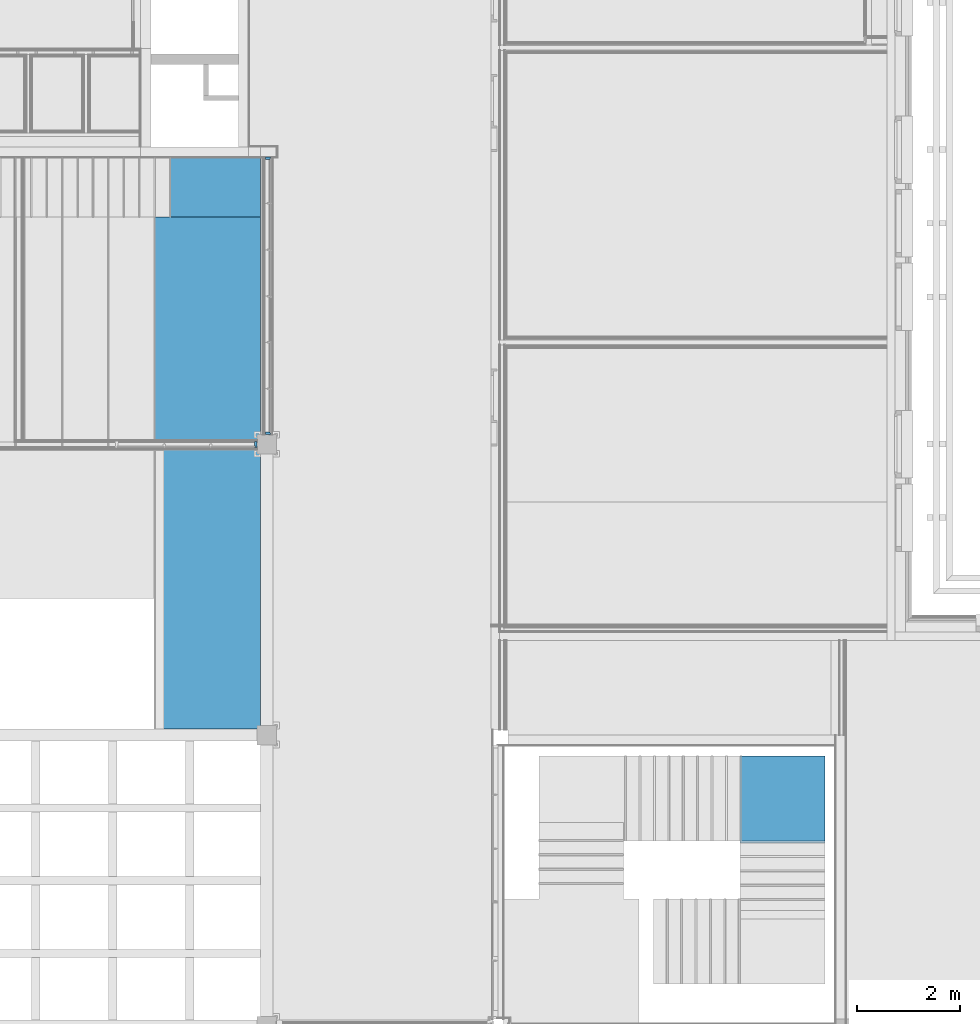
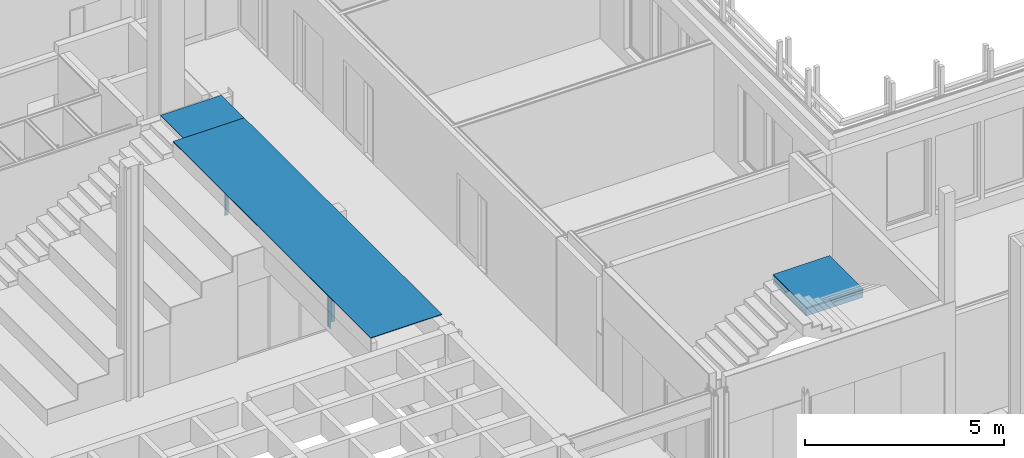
# One storey, part 41 of 139: 7 members, 5 elements without a shape of their own.
"""IFC2X3 building model written with IfcOpenShell, lengths in millimetres."""

from ifc_helpers import new_model, entity, si_unit, converted_unit, derived_unit, money_unit, direction, frame, origin_with_axes, place, context, subcontext, project, spatial, faceted_brep, material, type_object, element, aggregate, save


model = new_model("IFC2X3")

# Units and contexts
model_context = context("Model", 3, precision=0.01, world=origin_with_axes(), true_north=direction((0.0, 1.0)))
body_context = subcontext(model_context, "Body", "Model", "MODEL_VIEW")
ifc_project = project(units=[si_unit("LENGTHUNIT", "METRE", prefix="MILLI"), si_unit("AREAUNIT", "SQUARE_METRE"), si_unit("VOLUMEUNIT", "CUBIC_METRE"), converted_unit("PLANEANGLEUNIT", "DEGREE", entity("IfcPlaneAngleMeasure", 0.0174532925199), si_unit("PLANEANGLEUNIT", "RADIAN"), dimensions=[0, 0, 0, 0, 0, 0, 0]), money_unit("EUR"), converted_unit("TIMEUNIT", "Year", entity("IfcTimeMeasure", 31556926.0), si_unit("TIMEUNIT", "SECOND"), dimensions=[0, 0, 1, 0, 0, 0, 0]), si_unit("MASSUNIT", "GRAM", prefix="KILO"), si_unit("THERMODYNAMICTEMPERATUREUNIT", "DEGREE_CELSIUS"), si_unit("LUMINOUSINTENSITYUNIT", "LUMEN"), si_unit("ENERGYUNIT", "JOULE", prefix="MEGA"), derived_unit("THERMALCONDUCTANCEUNIT", [(si_unit("POWERUNIT", "WATT"), 1), (si_unit("LENGTHUNIT", "METRE"), -1), (si_unit("THERMODYNAMICTEMPERATUREUNIT", "KELVIN"), -1)]), derived_unit("SPECIFICHEATCAPACITYUNIT", [(si_unit("ENERGYUNIT", "JOULE"), 1), (si_unit("MASSUNIT", "GRAM", prefix="KILO"), -1), (si_unit("THERMODYNAMICTEMPERATUREUNIT", "KELVIN"), -1)]), derived_unit("MASSDENSITYUNIT", [(si_unit("MASSUNIT", "GRAM", prefix="KILO"), 1), (si_unit("VOLUMEUNIT", "CUBIC_METRE"), -1)])], contexts=[model_context])

# Site, building, storey
site_placement = place(None, origin_with_axes())
site = spatial("IfcSite", under=ifc_project, at=site_placement, Name="Kolde pst 67a", CompositionType="ELEMENT")
building_placement = place(site_placement, origin_with_axes())
building = spatial("IfcBuilding", under=site, at=building_placement, Name="Riigigümnaasium", CompositionType="ELEMENT")
storey_placement = place(building_placement, frame((0.0, 0.0, 4600.0), z_axis=(0.0, 0.0, 1.0), x_axis=(1.0, 0.0, 0.0)))
storey = spatial("IfcBuildingStorey", under=building, at=storey_placement, Name="2. korrus", CompositionType="ELEMENT", Elevation=4600.0)

# Stair, members
stair_1_placement = place(storey_placement, frame((55074.9941194, 31162.4614213, 0.0), z_axis=(0.0, 0.0, 1.0), x_axis=(1.0, 0.0, 0.0)))
stair_1 = element("IfcStair", 1, at=stair_1_placement, inside=storey, Name="TREPP", ShapeType="NOTDEFINED")
ifc_material_1 = material(Name="_KANDETARIND - raudbetoon C25/30 vastavalt EK osale")
member_type_1 = type_object("IfcMemberType", Name="IfcMember", PredefinedType="USERDEFINED")
member_1_placement = place(stair_1_placement, origin_with_axes())
member_1 = element("IfcMember", 2, at=member_1_placement, type_object=member_type_1, material=ifc_material_1, Name="TM KONSTRUKTSIOON - 013", ObjectType="Stair Structure", context=body_context, shape_type="Brep", body=[
    faceted_brep([(2349.98991721, 1215.00000702, 1999.25), (3999.95413168, 1215.00000702, 1999.25), (3999.95413168, 2872.51928463, 1999.25), (2381.98992246, 2872.51927533, 1999.25), (2381.98992246, 1222.51928548, 1999.25), (2349.98991721, 1222.5192854, 1999.25), (3999.95413168, 1215.00000702, 1749.25), (2349.98991721, 1215.00000702, 1749.25), (3999.95413168, 2872.51928463, 1749.25), (2349.98991721, 2872.51928463, 1749.25), (2349.98991721, 2872.51927628, 1843.0), (2381.98992246, 2872.51927533, 1843.0), (2381.98992246, 1222.51928548, 1843.0), (2349.98991721, 1222.5192854, 1843.0)], [[[0, 1, 2, 3, 4, 5]], [[6, 1, 0, 7]], [[1, 6, 8, 2]], [[9, 10, 11, 3, 2, 8]], [[12, 4, 3, 11]], [[13, 5, 4, 12]], [[7, 0, 5, 13, 10, 9]], [[6, 7, 9, 8]], [[12, 11, 10, 13]]]),
])
ifc_material_2 = material(Name="_VIIMISTLUSKIHT - viimistlus vastavalt SA osale")
member_type_2 = type_object("IfcMemberType", Name="IfcMember", PredefinedType="USERDEFINED")
member_2_placement = place(stair_1_placement, frame((2349.98991721, 2047.51928463, 2031.25), z_axis=(0.0, 0.0, 1.0), x_axis=(0.0, -1.0, 0.0)))
member_2 = element("IfcMember", 3, at=member_2_placement, type_object=member_type_2, material=ifc_material_2, Name="SL TREAD - 013", ObjectType="Stair Tread", context=body_context, shape_type="Brep", body=[
    faceted_brep([(-825.0, 1649.96421446, -32.0), (-825.0, 0.0, -32.0), (-825.0, 0.0, 0.0), (-825.0, 1649.96421446, 0.0), (864.519284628, 1649.96421446, -32.0), (864.519284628, 0.0, -32.0), (824.999989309, 0.0, -32.0), (824.999989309, 0.0, 0.0), (864.519284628, 0.0, 0.0), (864.519284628, 1649.96421446, 0.0)], [[[0, 1, 2, 3]], [[0, 4, 5, 6, 1]], [[1, 6, 7, 2]], [[3, 2, 7, 8, 9]], [[4, 0, 3, 9]], [[5, 4, 9, 8]], [[6, 5, 8, 7]]]),
])
aggregate(stair_1, [member_1, member_2])

# Stair, member
stair_2_placement = place(storey_placement, frame((39441.4880734, 44504.9999526, 0.0), z_axis=(0.0, 0.0, 1.0), x_axis=(1.0, 0.0, 0.0)))
stair_2 = element("IfcStair", 4, at=stair_2_placement, inside=storey, Name="Aula astmed", ShapeType="NOTDEFINED")
member_3_placement = place(stair_2_placement, frame((6899.99999944, 575.000006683, 3750.0), z_axis=(0.0, 0.0, 1.0), x_axis=(9.68563972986e-10, -1.0, 0.0)))
member_3 = element("IfcMember", 5, at=member_3_placement, type_object=member_type_2, material=ifc_material_2, Name="TV ASTE - 186", ObjectType="Stair Tread", context=body_context, shape_type="Brep", body=[
    faceted_brep([(-575.0, 0.0, -20.0), (575.0, 0.0, -20.0), (575.0, 0.0, 0.0), (-575.0, 0.0, 0.0), (-575.0, 1768.4973848, -20.0), (575.0, 1768.4973848, -20.0), (575.0, 1768.4973848, 0.0), (-575.0, 1768.4973848, 0.0)], [[[0, 1, 2, 3]], [[0, 4, 5, 1]], [[1, 5, 6, 2]], [[3, 2, 6, 7]], [[4, 0, 3, 7]], [[5, 4, 7, 6]]]),
])
aggregate(stair_2, [member_3])

stair_3_placement = place(storey_placement, frame((40219.9992293, 44504.9999598, 0.0), z_axis=(0.0, 0.0, 1.0), x_axis=(1.0, 0.0, 0.0)))
stair_3 = element("IfcStair", 6, at=stair_3_placement, inside=storey, Name="Aula astmed", ShapeType="NOTDEFINED")
member_4_placement = place(stair_3_placement, frame((5820.00000014, -2300.0, 3750.0), z_axis=(0.0, 0.0, 1.0), x_axis=(0.0, -1.0, 0.0)))
member_4 = element("IfcMember", 7, at=member_4_placement, type_object=member_type_2, material=ifc_material_2, Name="TV ASTE - 208", ObjectType="Stair Tread", context=body_context, shape_type="Brep", body=[
    faceted_brep([(-2300.0, 0.0, -20.0), (7644.99995982, 0.0, -20.0), (7644.99995982, 0.0, 0.0), (-2300.0, 0.0, 0.0), (-2300.0, 2069.98622872, -20.0), (7644.99995982, 2069.98622872, -20.0), (7644.99995982, 2069.98622872, 0.0), (-2300.0, 2069.98622872, 0.0)], [[[0, 1, 2, 3]], [[0, 4, 5, 1]], [[1, 5, 6, 2]], [[3, 2, 6, 7]], [[4, 0, 3, 7]], [[5, 4, 7, 6]]]),
])
aggregate(stair_3, [member_4])

# Curtain wall, members
curtain_wall_type = type_object("IfcCurtainWallType", Name="Curtain Wall Type", PredefinedType="NOTDEFINED")
curtain_wall_1_placement = place(storey_placement, frame((48304.9854607, 45219.9999598, 0.0), z_axis=(0.0, 0.0, 1.0), x_axis=(1.0, 0.0, 0.0)))
curtain_wall_1 = element("IfcCurtainWall", 8, at=curtain_wall_1_placement, inside=storey, type_object=curtain_wall_type, Name="KLAASSEIN")
ifc_material_3 = material(Name="_KANDETARIND - puitkarkass")
member_type_3 = type_object("IfcMemberType", Name="Boundary Frame 50 x 100", PredefinedType="MEMBER")
member_5_placement = place(curtain_wall_1_placement, frame((0.0, 450.0, 0.0), z_axis=(0.0, 0.0, 1.0), x_axis=(0.0, 1.0, 0.0)))
member_5 = element("IfcMember", 9, at=member_5_placement, type_object=member_type_3, material=ifc_material_3, Name="RF RAAM SERV-205", ObjectType="MEMBER", context=body_context, shape_type="Brep", body=[
    faceted_brep([(-50.0, 10.0, 50.0), (-50.0, 10.0, 2250.00008941), (-50.0, 100.0, 2250.00008941), (-50.0, 100.0, 50.0), (-25.0, 10.0, 2275.00008941), (-25.0, 10.0, 25.0), (-25.0, 0.0, 2275.00008941), (0.0, 0.0, 2300.00008941), (0.0, 100.0, 2300.00008941), (0.0, 100.0, 0.0), (0.0, 0.0, 0.0), (-25.0, 0.0, 25.0)], [[[0, 1, 2, 3]], [[4, 1, 0, 5]], [[4, 6, 7, 8, 2, 1]], [[2, 8, 9, 3]], [[5, 0, 3, 9, 10, 11]], [[11, 6, 4, 5]], [[6, 11, 10, 7]], [[8, 7, 10, 9]]]),
])
member_6_placement = place(curtain_wall_1_placement, frame((0.0, -4939.99996424, 0.0), z_axis=(0.0, 0.0, 1.0), x_axis=(0.0, 1.0, 0.0)))
member_6 = element("IfcMember", 10, at=member_6_placement, type_object=member_type_3, material=ifc_material_3, Name="RF RAAM SERV-198", ObjectType="MEMBER", context=body_context, shape_type="Brep", body=[
    faceted_brep([(50.0, 10.0, 50.0), (50.0, 100.0, 50.0), (50.0, 100.0, 2250.00008941), (50.0, 10.0, 2250.00008941), (25.0, 10.0, 25.0), (25.0, 0.0, 25.0), (0.0, 0.0, 0.0), (0.0, 100.0, 0.0), (0.0, 100.0, 2300.00008941), (25.0, 10.0, 2275.00008941), (0.0, 0.0, 2300.00008941), (25.0, 0.0, 2275.00008941)], [[[0, 1, 2, 3]], [[4, 5, 6, 7, 1, 0]], [[2, 1, 7, 8]], [[9, 3, 2, 8, 10, 11]], [[9, 4, 0, 3]], [[5, 4, 9, 11]], [[11, 10, 6, 5]], [[8, 7, 6, 10]]]),
])
aggregate(curtain_wall_1, [member_5, member_6])

# Curtain wall, member
curtain_wall_2_placement = place(storey_placement, frame((47589.9854607, 40044.9999177, -2.01657108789e-05), z_axis=(0.0, 0.0, 1.0), x_axis=(1.0, 0.0, 0.0)))
curtain_wall_2 = element("IfcCurtainWall", 11, at=curtain_wall_2_placement, inside=storey, type_object=curtain_wall_type, Name="KLAASSEIN")
member_type_4 = type_object("IfcMemberType", Name="Boundary Frame 50 x 120", PredefinedType="MEMBER")
member_7_placement = place(curtain_wall_2_placement, frame((450.0, 0.0, 0.0), z_axis=(0.0, 0.0, 1.0), x_axis=(1.0, 0.0, 0.0)))
member_7 = element("IfcMember", 12, at=member_7_placement, type_object=member_type_4, material=ifc_material_3, Name="RF RAAM SERV-151", ObjectType="MEMBER", context=body_context, shape_type="Brep", body=[
    faceted_brep([(-30.0, 10.0, 2270.00002017), (-30.0, -10.0, 2270.00002017), (-50.0, -10.0, 2250.00002017), (-50.0, -20.0, 2250.00002017), (0.0, -20.0, 2300.00002017), (0.0, 100.0, 2300.00002017), (-50.0, 100.0, 2250.00002017), (-50.0, 10.0, 2250.00002017), (-30.0, 10.0, 30.0), (-30.0, -10.0, 30.0), (-50.0, -10.0, 50.0), (-50.0, -20.0, 50.0), (0.0, -20.0, 0.0), (0.0, 100.0, 0.0), (-50.0, 100.0, 50.0), (-50.0, 10.0, 50.0)], [[[0, 1, 2, 3, 4, 5, 6, 7]], [[1, 0, 8, 9]], [[10, 2, 1, 9]], [[2, 10, 11, 3]], [[4, 3, 11, 12]], [[5, 4, 12, 13]], [[6, 5, 13, 14]], [[15, 7, 6, 14]], [[0, 7, 15, 8]], [[8, 15, 14, 13, 12, 11, 10, 9]]]),
])
aggregate(curtain_wall_2, [member_7])

save(model, "model.ifc")
